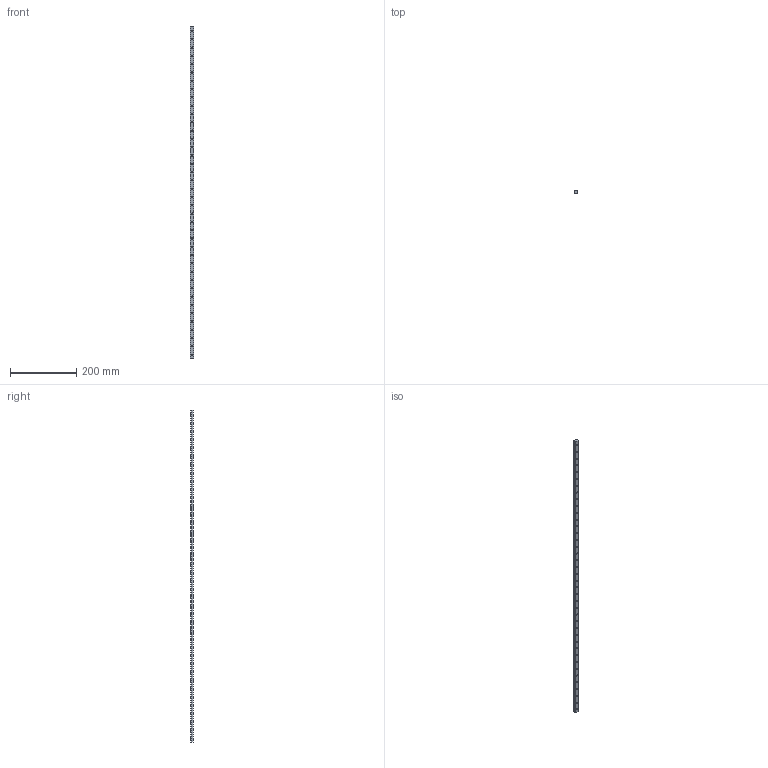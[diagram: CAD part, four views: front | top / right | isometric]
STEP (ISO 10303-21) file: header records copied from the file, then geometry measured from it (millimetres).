
FILE_DESCRIPTION (( 'STEP AP214' ), '1' );
FILE_NAME ('2.0015 Lineaarijohde MGN12 1000 mm.STEP', '2024-04-22T10:00:09', ( '' ), ( '' ), 'SwSTEP 2.0', 'SolidWorks 2024', '' );
FILE_SCHEMA (( 'AUTOMOTIVE_DESIGN' ));
Length unit declared in the file: millimetre
Products named in the file (1): 2.0015 Lineaarijohde MGN12 1000 mm
Bounding box: 12 x 8 x 1000 mm (x, y, z)
Volume: 85221.1 mm3; surface area: 46181.3 mm2
Topology: 1 solids, 1 shells, 215 faces, 519 edges, 346 vertices
Faces by surface type: cylinder 163, plane 52
Entity records: 6642 total; most frequent: DIRECTION 1277, CARTESIAN_POINT 1081, ORIENTED_EDGE 1038, AXIS2_PLACEMENT_3D 542, EDGE_CURVE 519, VERTEX_POINT 346, EDGE_LOOP 335, CIRCLE 326
